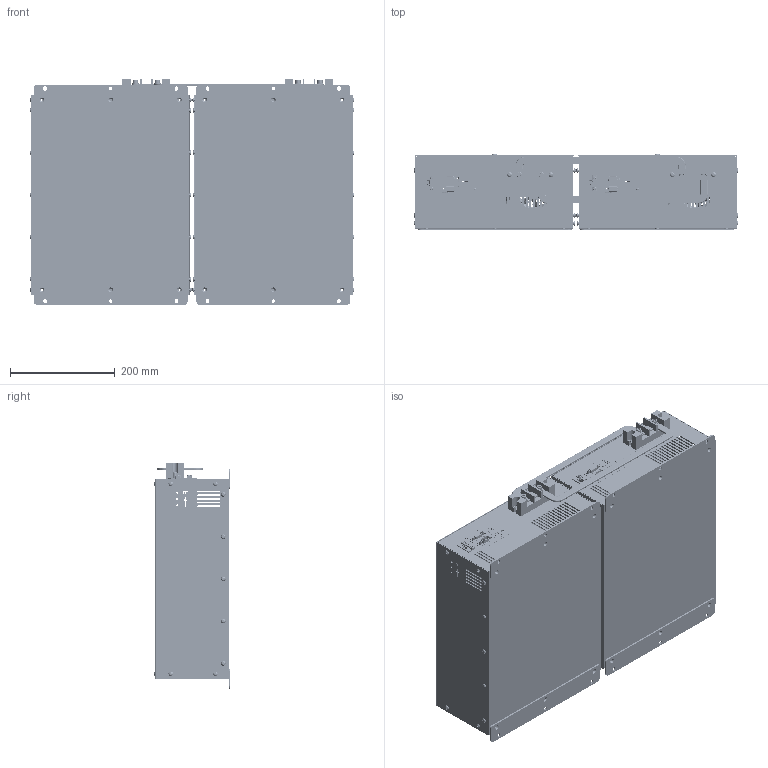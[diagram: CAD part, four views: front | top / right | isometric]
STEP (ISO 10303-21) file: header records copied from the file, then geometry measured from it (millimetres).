
FILE_DESCRIPTION(/* description */ (''),/* implementation_level */ '2;1');
FILE_NAME(/* name */ 'G:\016_배터리 버스바 도면\X4COM\[3D 도면]\[STEP,IGES]\X4COM-BUSBAR.stp',/* time_stamp */ '2023-11-07T14:33:50+09:00',/* author */ ('jjang'),/* organization */ (''),/* preprocessor_version */ 'ST-DEVELOPER v18.1',/* originating_system */ 'Autodesk Inventor 2021',/* authorisation */ '');
FILE_SCHEMA (('AUTOMOTIVE_DESIGN { 1 0 10303 214 3 1 1 }'));
Products named in the file (24): X4COM-BUSBAR; X4COM; BOTTOM; TOP; BMU board; BMU; 172-009-283; 772-E09-113; BMU Sticker; 단자대 3P; 트러스머리_M5_10; 트러스머리_M4_10; pxc_0710170_03_DFK-MSTB-2-5-2-GF-5-08_3D; Gewindebuchse; DFK-MSTB_2.5-GF-5.08_GEH; DFK-2.8-MSTB_2.5_METALL.1; semsbolt_M3_6; FAN 60X60X20; M5 리벳; POP NUT M4; BRACKET; BUSBAR(+); BUSBAR(-); SEMSBOLT_M6-12
Assembly tree (61 placements, depth 4):
  X4COM-BUSBAR
    X4COM  x2
      BOTTOM
      TOP
      BMU board
        BMU
        172-009-283
        772-E09-113
        BMU Sticker
      단자대 3P
      POP NUT M4
      트러스머리_M5_10
      트러스머리_M4_10
      M5 리벳
      pxc_0710170_03_DFK-MSTB-2-5-2-GF-5-08_3D
        Gewindebuchse  x2
        DFK-MSTB_2.5-GF-5.08_GEH
        DFK-2.8-MSTB_2.5_METALL.1  x2
      semsbolt_M3_6
      FAN 60X60X20
      BRACKET
    BUSBAR(+)
    BUSBAR(-)
    SEMSBOLT_M6-12  x4
Bounding box: 619.24 x 145.97 x 431 mm (x, y, z)
Volume: 1590914.4 mm3; surface area: 2114634.2 mm2
Topology: 126 solids, 126 shells, 11706 faces, 31562 edges, 20860 vertices
Faces by surface type: plane 5776, bspline 3208, cylinder 2342, torus 260, cone 66, sphere 54
Full cylindrical faces by diameter (mm): 0.61 x54, 0.635 x18, 0.9 x12, 1.397 x18, 2.286 x18, 2.5 x4, 2.8 x12, 2.957 x8, 3 x4, 3.048 x8, 3.6 x24, 3.7 x8, 3.8 x20, 4 x34, 4.3 x24, 4.5 x52, 5 x38, 5.3 x20, 5.4 x4, 5.429 x4, 5.5 x20, 5.9 x4, 6 x4, 6.082 x2, 6.2 x6, 6.6 x4, 7 x4, 8 x2, 8.8 x20, 9.2 x4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
Entity records: 141598 total; most frequent: CARTESIAN_POINT 48954, ORIENTED_EDGE 20912, DIRECTION 15123, EDGE_CURVE 10456, VERTEX_POINT 6954, LINE 6055, VECTOR 6055, AXIS2_PLACEMENT_3D 4534
